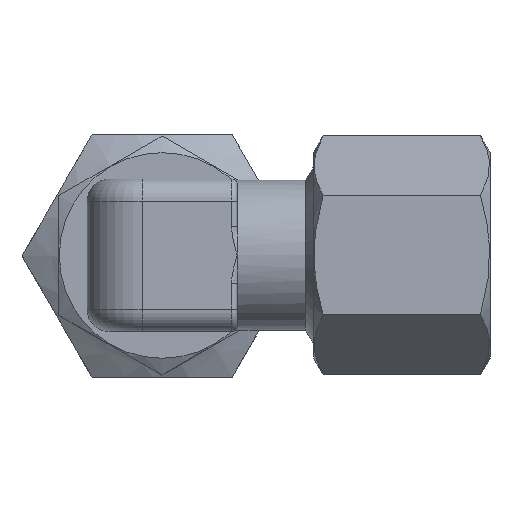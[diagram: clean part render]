
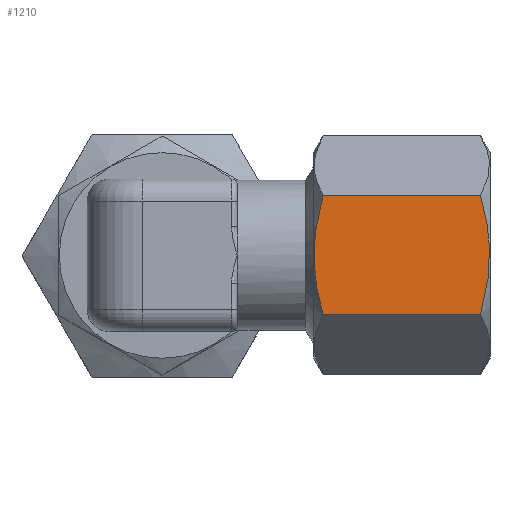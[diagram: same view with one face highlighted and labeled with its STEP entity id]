
A CAD part, top view. The second image highlights one B-rep face of the part: STEP entity #1210.
In plain terms, the highlighted planar face has unit normal (0, 0.001, 1).
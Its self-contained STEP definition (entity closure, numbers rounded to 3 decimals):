
#58=LINE('',#1853,#109);
#60=LINE('',#1861,#111);
#109=VECTOR('',#1471,14.262);
#111=VECTOR('',#1475,14.262);
#162=(
BOUNDED_CURVE()
B_SPLINE_CURVE(2,(#1835,#1836,#1837),.UNSPECIFIED.,.F.,.F.)
B_SPLINE_CURVE_WITH_KNOTS((3,3),(0.383,1.653),
 .UNSPECIFIED.)
CURVE()
GEOMETRIC_REPRESENTATION_ITEM()
RATIONAL_B_SPLINE_CURVE((1.138,1.315,1.138))
REPRESENTATION_ITEM('')
);
#167=(
BOUNDED_CURVE()
B_SPLINE_CURVE(2,(#1862,#1863,#1864),.UNSPECIFIED.,.F.,.F.)
B_SPLINE_CURVE_WITH_KNOTS((3,3),(0.32,1.556),
 .UNSPECIFIED.)
CURVE()
GEOMETRIC_REPRESENTATION_ITEM()
RATIONAL_B_SPLINE_CURVE((1.112,1.284,1.112))
REPRESENTATION_ITEM('')
);
#268=FACE_OUTER_BOUND('',#358,.T.);
#358=EDGE_LOOP('',(#836,#837,#838,#839));
#539=VERTEX_POINT('',#1830);
#540=VERTEX_POINT('',#1834);
#544=VERTEX_POINT('',#1852);
#546=VERTEX_POINT('',#1860);
#652=EDGE_CURVE('',#540,#539,#162,.T.);
#657=EDGE_CURVE('',#540,#544,#58,.T.);
#660=EDGE_CURVE('',#539,#546,#60,.T.);
#661=EDGE_CURVE('',#546,#544,#167,.T.);
#836=ORIENTED_EDGE('',*,*,#652,.T.);
#837=ORIENTED_EDGE('',*,*,#660,.T.);
#838=ORIENTED_EDGE('',*,*,#661,.T.);
#839=ORIENTED_EDGE('',*,*,#657,.F.);
#1171=PLANE('',#1304);
#1210=ADVANCED_FACE('',(#268),#1171,.T.);
#1304=AXIS2_PLACEMENT_3D('',#1859,#1473,#1474);
#1471=DIRECTION('',(-1.,0.,0.));
#1473=DIRECTION('center_axis',(0.,0.001,
1.));
#1474=DIRECTION('ref_axis',(1.,0.,0.));
#1475=DIRECTION('',(-1.,0.,0.));
#1830=CARTESIAN_POINT('',(28.861,5.42,55.971));
#1834=CARTESIAN_POINT('',(28.861,-5.405,55.979));
#1835=CARTESIAN_POINT('Ctrl Pts',(28.861,-5.405,55.979));
#1836=CARTESIAN_POINT('Ctrl Pts',(30.424,0.008,
55.975));
#1837=CARTESIAN_POINT('Ctrl Pts',(28.861,5.42,55.971));
#1852=CARTESIAN_POINT('',(14.599,-5.405,55.979));
#1853=CARTESIAN_POINT('',(29.73,-5.405,55.979));
#1859=CARTESIAN_POINT('Origin',(29.73,5.42,55.971));
#1860=CARTESIAN_POINT('',(14.599,5.42,55.971));
#1861=CARTESIAN_POINT('',(29.73,5.42,55.971));
#1862=CARTESIAN_POINT('Ctrl Pts',(14.599,5.42,55.971));
#1863=CARTESIAN_POINT('Ctrl Pts',(13.037,0.008,
55.975));
#1864=CARTESIAN_POINT('Ctrl Pts',(14.599,-5.405,55.979));
